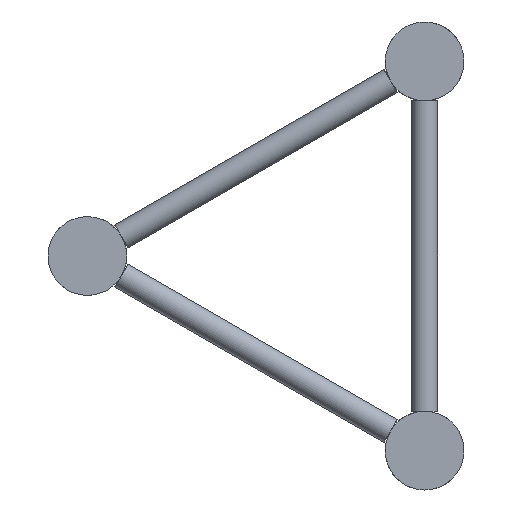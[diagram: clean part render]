
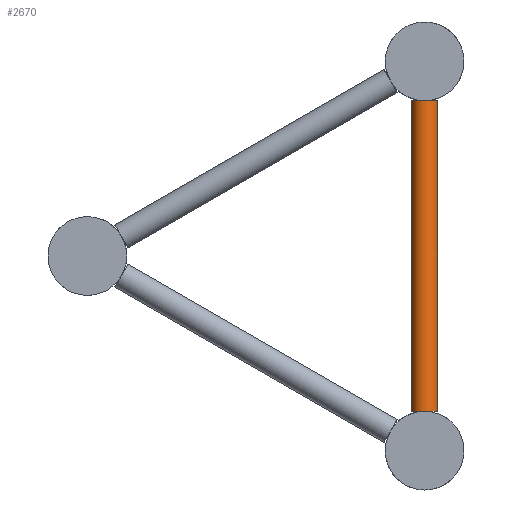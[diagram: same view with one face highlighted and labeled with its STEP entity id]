
A CAD part, left-side view. The second image highlights one B-rep face of the part: STEP entity #2670.
In plain terms, the highlighted cylindrical face has radius 8 mm (diameter 16 mm), a full revolution.
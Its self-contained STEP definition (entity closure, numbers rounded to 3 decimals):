
#372=CYLINDRICAL_SURFACE('',#2938,8.);
#483=FACE_BOUND('',#889,.T.);
#623=FACE_OUTER_BOUND('',#888,.T.);
#888=EDGE_LOOP('',(#1993,#1994));
#889=EDGE_LOOP('',(#1995,#1996));
#1029=CIRCLE('',#2786,8.);
#1046=CIRCLE('',#2935,8.);
#1047=CIRCLE('',#2937,8.);
#1048=CIRCLE('',#2939,8.);
#1093=VERTEX_POINT('',#3865);
#1094=VERTEX_POINT('',#3866);
#1217=VERTEX_POINT('',#4341);
#1218=VERTEX_POINT('',#4342);
#1321=EDGE_CURVE('',#1094,#1093,#1029,.T.);
#1502=EDGE_CURVE('',#1218,#1217,#1046,.T.);
#1503=EDGE_CURVE('',#1217,#1218,#1047,.T.);
#1504=EDGE_CURVE('',#1093,#1094,#1048,.T.);
#1993=ORIENTED_EDGE('',*,*,#1503,.T.);
#1994=ORIENTED_EDGE('',*,*,#1502,.T.);
#1995=ORIENTED_EDGE('',*,*,#1504,.T.);
#1996=ORIENTED_EDGE('',*,*,#1321,.T.);
#2670=ADVANCED_FACE('',(#623,#483),#372,.T.);
#2786=AXIS2_PLACEMENT_3D('',#3918,#3159,#3160);
#2935=AXIS2_PLACEMENT_3D('',#4555,#3521,#3522);
#2937=AXIS2_PLACEMENT_3D('',#4557,#3525,#3526);
#2938=AXIS2_PLACEMENT_3D('',#4558,#3527,#3528);
#2939=AXIS2_PLACEMENT_3D('',#4559,#3529,#3530);
#3159=DIRECTION('center_axis',(0.,0.,
-1.));
#3160=DIRECTION('ref_axis',(-1.,0.,0.));
#3521=DIRECTION('center_axis',(0.,0.,
1.));
#3522=DIRECTION('ref_axis',(-1.,0.,0.));
#3525=DIRECTION('center_axis',(0.,0.,
1.));
#3526=DIRECTION('ref_axis',(-1.,0.,0.));
#3527=DIRECTION('center_axis',(0.,0.,
1.));
#3528=DIRECTION('ref_axis',(-1.,0.,0.));
#3529=DIRECTION('center_axis',(0.,0.,
-1.));
#3530=DIRECTION('ref_axis',(-1.,0.,0.));
#3865=CARTESIAN_POINT('',(68.,0.,-24.15));
#3866=CARTESIAN_POINT('',(52.,0.,-24.15));
#3918=CARTESIAN_POINT('Origin',(60.,0.,-24.15));
#4341=CARTESIAN_POINT('',(68.,0.,-214.85));
#4342=CARTESIAN_POINT('',(52.,0.,-214.85));
#4555=CARTESIAN_POINT('Origin',(60.,0.,-214.85));
#4557=CARTESIAN_POINT('Origin',(60.,0.,-214.85));
#4558=CARTESIAN_POINT('Origin',(60.,0.,-119.5));
#4559=CARTESIAN_POINT('Origin',(60.,0.,-24.15));
